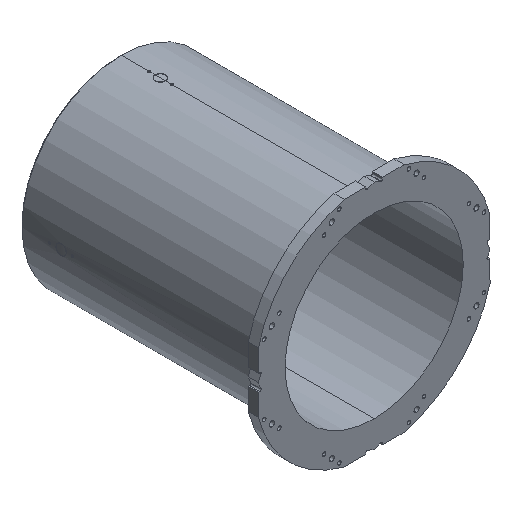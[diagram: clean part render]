
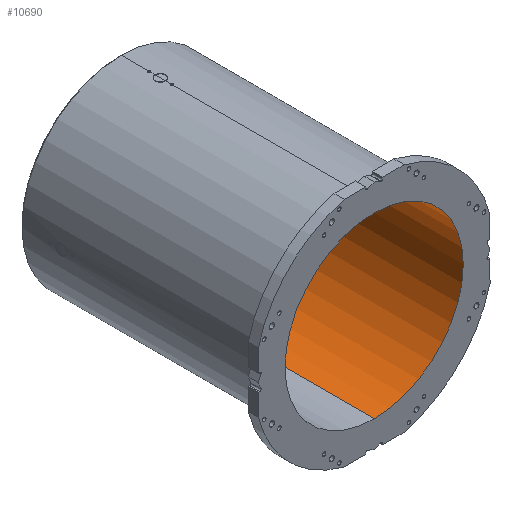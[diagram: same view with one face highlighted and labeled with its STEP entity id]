
A CAD part, isometric view. The second image highlights one B-rep face of the part: STEP entity #10690.
In plain terms, the highlighted cylindrical face has radius 350 mm (diameter 700 mm), a partial arc.
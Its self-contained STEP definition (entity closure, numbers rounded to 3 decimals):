
#93 = CARTESIAN_POINT ( 'NONE',  ( 0., 963., 350. ) ) ;
#320 = ORIENTED_EDGE ( 'NONE', *, *, #10258, .T. ) ;
#1003 = VECTOR ( 'NONE', #10247, 1000. ) ;
#1422 = EDGE_CURVE ( 'NONE', #9233, #6531, #3175, .T. ) ;
#1483 = DIRECTION ( 'NONE',  ( 0., 0., 1. ) ) ;
#1718 = ORIENTED_EDGE ( 'NONE', *, *, #1422, .F. ) ;
#2362 = AXIS2_PLACEMENT_3D ( 'NONE', #4470, #7497, #11467 ) ;
#3175 = CIRCLE ( 'NONE', #6456, 350. ) ;
#3969 = ORIENTED_EDGE ( 'NONE', *, *, #11020, .T. ) ;
#4470 = CARTESIAN_POINT ( 'NONE',  ( 0., 963., 0. ) ) ;
#4934 = FACE_OUTER_BOUND ( 'NONE', #5696, .T. ) ;
#5363 = DIRECTION ( 'NONE',  ( 0., 1., 0. ) ) ;
#5696 = EDGE_LOOP ( 'NONE', ( #10738, #1718, #3969, #320 ) ) ;
#5879 = DIRECTION ( 'NONE',  ( 0., 1., 0. ) ) ;
#6208 = CARTESIAN_POINT ( 'NONE',  ( 0., 0., -350. ) ) ;
#6280 = LINE ( 'NONE', #6208, #1003 ) ;
#6456 = AXIS2_PLACEMENT_3D ( 'NONE', #10362, #5363, #1483 ) ;
#6531 = VERTEX_POINT ( 'NONE', #12713 ) ;
#6665 = CARTESIAN_POINT ( 'NONE',  ( 0., 0., 350. ) ) ;
#6668 = VECTOR ( 'NONE', #8246, 1000. ) ;
#7497 = DIRECTION ( 'NONE',  ( 0., 1., 0. ) ) ;
#7537 = EDGE_CURVE ( 'NONE', #6531, #11808, #6280, .T. ) ;
#7921 = CIRCLE ( 'NONE', #2362, 350. ) ;
#8179 = LINE ( 'NONE', #10018, #6668 ) ;
#8246 = DIRECTION ( 'NONE',  ( 0., 1., 0. ) ) ;
#9233 = VERTEX_POINT ( 'NONE', #6665 ) ;
#9954 = VERTEX_POINT ( 'NONE', #93 ) ;
#10018 = CARTESIAN_POINT ( 'NONE',  ( 0., 0., 350. ) ) ;
#10189 = AXIS2_PLACEMENT_3D ( 'NONE', #12581, #5879, #10696 ) ;
#10247 = DIRECTION ( 'NONE',  ( 0., 1., 0. ) ) ;
#10258 = EDGE_CURVE ( 'NONE', #9954, #11808, #7921, .T. ) ;
#10362 = CARTESIAN_POINT ( 'NONE',  ( 0., 0., 0. ) ) ;
#10690 = ADVANCED_FACE ( 'NONE', ( #4934 ), #11792, .F. ) ;
#10696 = DIRECTION ( 'NONE',  ( 0., 0., 1. ) ) ;
#10738 = ORIENTED_EDGE ( 'NONE', *, *, #7537, .F. ) ;
#11020 = EDGE_CURVE ( 'NONE', #9233, #9954, #8179, .T. ) ;
#11467 = DIRECTION ( 'NONE',  ( 0., 0., 1. ) ) ;
#11792 = CYLINDRICAL_SURFACE ( 'NONE', #10189, 350. ) ;
#11808 = VERTEX_POINT ( 'NONE', #12464 ) ;
#12464 = CARTESIAN_POINT ( 'NONE',  ( 0., 963., -350. ) ) ;
#12581 = CARTESIAN_POINT ( 'NONE',  ( 0., 0., 0. ) ) ;
#12713 = CARTESIAN_POINT ( 'NONE',  ( 0., 0., -350. ) ) ;
